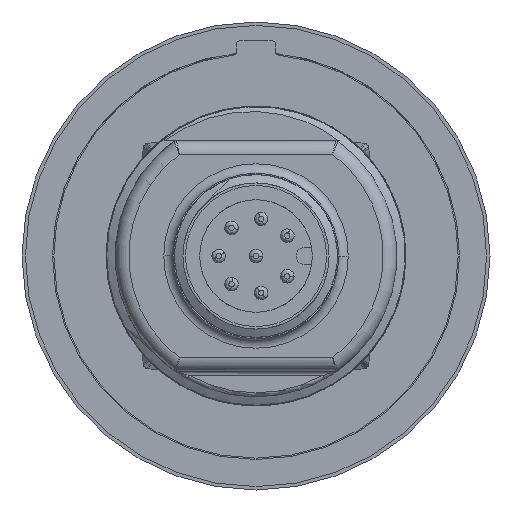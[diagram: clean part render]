
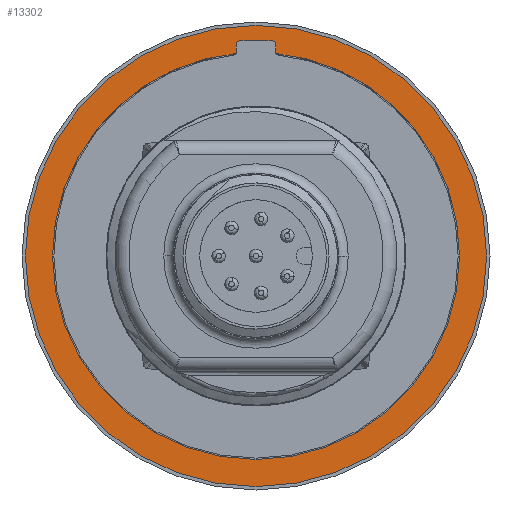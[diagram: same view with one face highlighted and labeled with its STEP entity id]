
A CAD part, front view. The second image highlights one B-rep face of the part: STEP entity #13302.
In plain terms, the highlighted planar face has unit normal (0, -1, 0).
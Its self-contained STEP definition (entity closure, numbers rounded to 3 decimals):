
#767=CARTESIAN_POINT('',(0.,5.5,0.));
#768=DIRECTION('',(0.,1.,0.));
#769=DIRECTION('',(1.,0.,0.));
#770=AXIS2_PLACEMENT_3D('',#767,#768,#769);
#772=CARTESIAN_POINT('',(0.,5.5,0.));
#773=DIRECTION('',(0.,1.,0.));
#774=DIRECTION('',(-1.,0.,0.));
#775=AXIS2_PLACEMENT_3D('',#772,#773,#774);
#777=CARTESIAN_POINT('',(0.,5.5,0.));
#778=DIRECTION('',(0.,-1.,0.));
#779=DIRECTION('',(-0.083,0.,0.997));
#780=AXIS2_PLACEMENT_3D('',#777,#778,#779);
#782=CARTESIAN_POINT('',(0.,5.5,0.));
#783=DIRECTION('',(0.,-1.,0.));
#784=DIRECTION('',(-1.,0.,0.));
#785=AXIS2_PLACEMENT_3D('',#782,#783,#784);
#787=CARTESIAN_POINT('',(0.,5.5,0.));
#788=DIRECTION('',(0.,-1.,0.));
#789=DIRECTION('',(1.,0.,0.));
#790=AXIS2_PLACEMENT_3D('',#787,#788,#789);
#792=DIRECTION('',(0.,0.,1.));
#793=VECTOR('',#792,0.699);
#794=CARTESIAN_POINT('',(-1.25,5.5,14.948));
#795=LINE('',#794,#793);
#811=CARTESIAN_POINT('',(0.,5.5,0.9));
#812=DIRECTION('',(0.,1.,0.));
#813=DIRECTION('',(-0.084,0.,0.996));
#814=AXIS2_PLACEMENT_3D('',#811,#812,#813);
#831=DIRECTION('',(0.,0.,-1.));
#832=VECTOR('',#831,0.699);
#833=CARTESIAN_POINT('',(1.25,5.5,15.647));
#834=LINE('',#833,#832);
#12341=CARTESIAN_POINT('',(17.,5.5,0.));
#12342=CARTESIAN_POINT('',(-17.,5.5,0.));
#12343=VERTEX_POINT('',#12341);
#12344=VERTEX_POINT('',#12342);
#12345=CARTESIAN_POINT('',(-15.,5.5,0.));
#12346=CARTESIAN_POINT('',(15.,5.5,0.));
#12347=VERTEX_POINT('',#12345);
#12348=VERTEX_POINT('',#12346);
#12349=CARTESIAN_POINT('',(1.25,5.5,14.948));
#12350=CARTESIAN_POINT('',(-1.25,5.5,
14.948));
#12351=VERTEX_POINT('',#12349);
#12352=VERTEX_POINT('',#12350);
#12353=CARTESIAN_POINT('',(-1.25,5.5,15.647));
#12354=VERTEX_POINT('',#12353);
#12355=CARTESIAN_POINT('',(1.25,5.5,15.647));
#12356=VERTEX_POINT('',#12355);
#13279=CARTESIAN_POINT('',(0.,5.5,0.));
#13280=DIRECTION('',(0.,1.,0.));
#13281=DIRECTION('',(1.,0.,0.));
#13282=AXIS2_PLACEMENT_3D('',#13279,#13280,#13281);
#13283=PLANE('',#13282);
#13284=ORIENTED_EDGE('',*,*,#13245,.T.);
#13285=ORIENTED_EDGE('',*,*,#13266,.T.);
#13286=EDGE_LOOP('',(#13284,#13285));
#13287=FACE_OUTER_BOUND('',#13286,.F.);
#13289=ORIENTED_EDGE('',*,*,#13288,.F.);
#13291=ORIENTED_EDGE('',*,*,#13290,.T.);
#13293=ORIENTED_EDGE('',*,*,#13292,.T.);
#13295=ORIENTED_EDGE('',*,*,#13294,.T.);
#13297=ORIENTED_EDGE('',*,*,#13296,.F.);
#13299=ORIENTED_EDGE('',*,*,#13298,.F.);
#13300=EDGE_LOOP('',(#13289,#13291,#13293,#13295,#13297,#13299));
#13301=FACE_BOUND('',#13300,.F.);
#13302=ADVANCED_FACE('',(#13287,#13301),#13283,.F.);
#771=CIRCLE('',#770,17.);
#776=CIRCLE('',#775,17.);
#781=CIRCLE('',#780,15.);
#786=CIRCLE('',#785,15.);
#791=CIRCLE('',#790,15.);
#815=CIRCLE('',#814,14.8);
#13245=EDGE_CURVE('',#12343,#12344,#771,.T.);
#13266=EDGE_CURVE('',#12344,#12343,#776,.T.);
#13288=EDGE_CURVE('',#12352,#12354,#795,.T.);
#13290=EDGE_CURVE('',#12352,#12347,#781,.T.);
#13292=EDGE_CURVE('',#12347,#12348,#786,.T.);
#13294=EDGE_CURVE('',#12348,#12351,#791,.T.);
#13296=EDGE_CURVE('',#12356,#12351,#834,.T.);
#13298=EDGE_CURVE('',#12354,#12356,#815,.T.);
